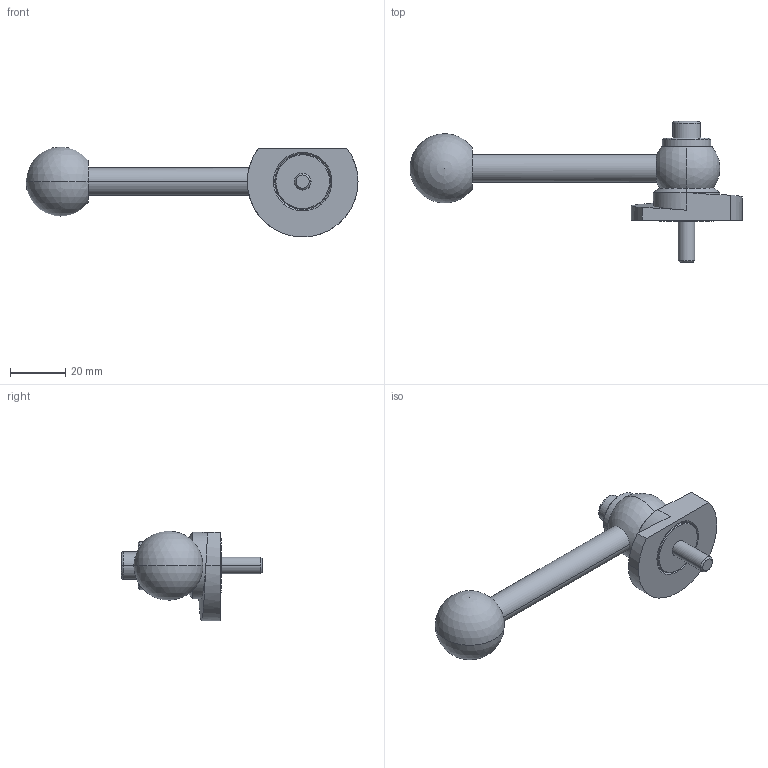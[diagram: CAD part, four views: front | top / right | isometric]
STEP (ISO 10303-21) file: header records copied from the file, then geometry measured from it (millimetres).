
FILE_DESCRIPTION (( 'STEP AP214' ), '1' );
FILE_NAME ('918.1-40-GVS-L-15.step', '2024-05-15T12:59:15', ( '' ), ( '' ), 'SwSTEP 2.0', 'SolidWorks 2022', '' );
FILE_SCHEMA (( 'AUTOMOTIVE_DESIGN' ));
Length unit declared in the file: millimetre
Products named in the file (1): 918.1-40-GVS-L-15
Bounding box: 120 x 51 x 32.5 mm (x, y, z)
Volume: 29931.9 mm3; surface area: 11021.8 mm2
Topology: 1 solids, 1 shells, 62 faces, 141 edges, 89 vertices
Faces by surface type: plane 20, cylinder 19, cone 14, sphere 4, bspline 3, torus 2
Entity records: 2003 total; most frequent: CARTESIAN_POINT 614, DIRECTION 304, ORIENTED_EDGE 262, EDGE_CURVE 131, AXIS2_PLACEMENT_3D 125, VERTEX_POINT 83, EDGE_LOOP 74, CIRCLE 65
